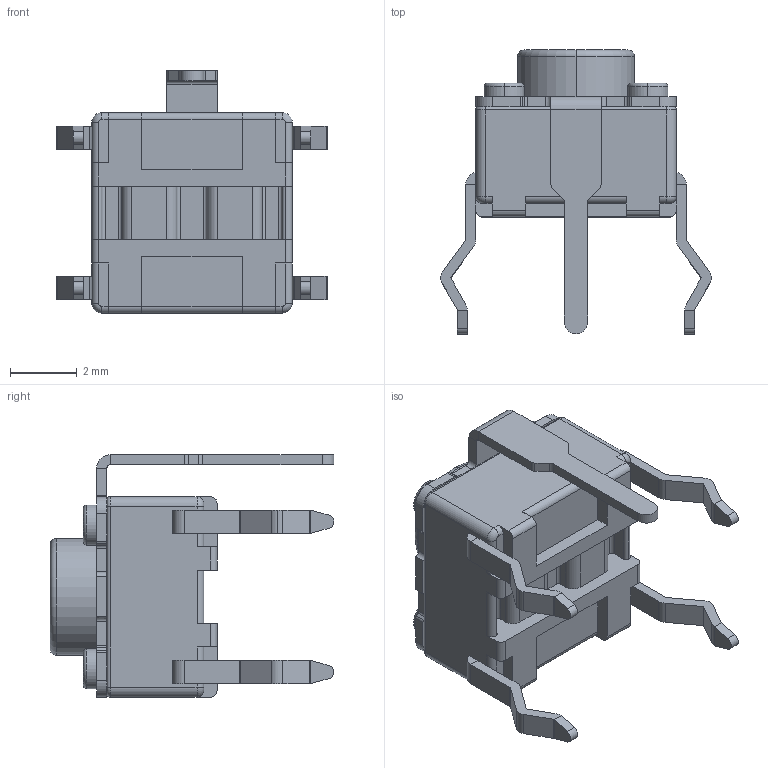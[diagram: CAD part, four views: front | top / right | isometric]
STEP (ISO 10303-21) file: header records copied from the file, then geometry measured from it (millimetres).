
FILE_DESCRIPTION (( 'STEP AP214' ), '1' );
FILE_NAME ('SKHHPR.STEP', '2012-09-04T00:57:22', ( ' ' ), ( '' ), 'SwSTEP 2.0', 'SolidWorks 2010', '' );
FILE_SCHEMA (( 'AUTOMOTIVE_DESIGN' ));
Length unit declared in the file: millimetre
Products named in the file (1): SKHHPR
Bounding box: 8.1 x 8.5 x 7.25 mm (x, y, z)
Volume: 138.7 mm3; surface area: 254.8 mm2
Topology: 1 solids, 1 shells, 286 faces, 754 edges, 476 vertices
Faces by surface type: plane 153, cylinder 115, torus 18
Entity records: 11583 total; most frequent: DIRECTION 1600, CARTESIAN_POINT 1517, ORIENTED_EDGE 1508, EDGE_CURVE 754, AXIS2_PLACEMENT_3D 559, LINE 482, VECTOR 482, VERTEX_POINT 476
